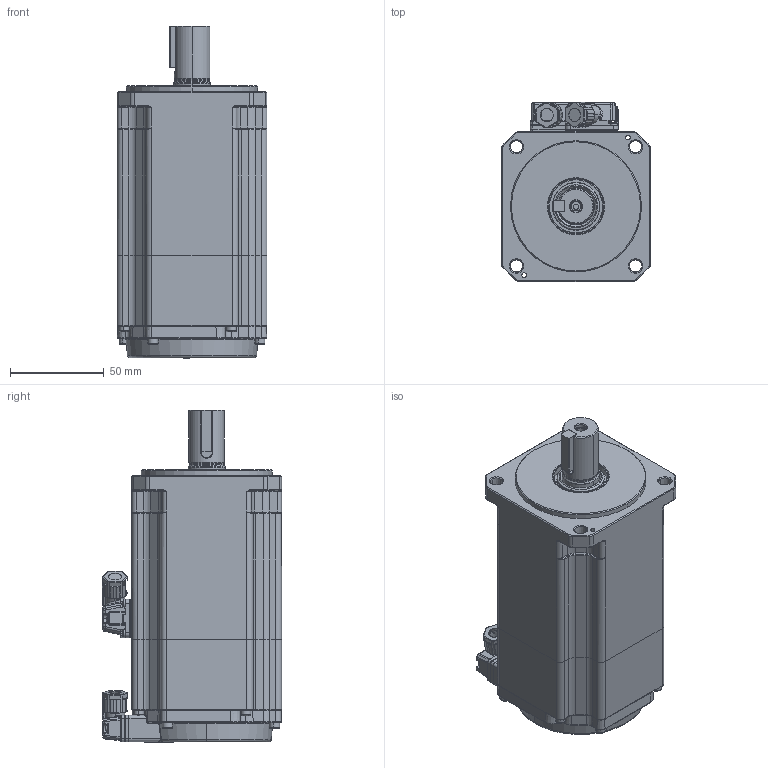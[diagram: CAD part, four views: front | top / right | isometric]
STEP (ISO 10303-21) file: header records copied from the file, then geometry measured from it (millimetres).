
FILE_DESCRIPTION (( 'STEP AP214' ), '1' );
FILE_NAME ('80x80-1000W伺服电机带制动器_通用外形图_A0.STEP', '2023-09-15T02:03:00', ( '' ), ( '' ), 'SwSTEP 2.0', 'SolidWorks 2020', '' );
FILE_SCHEMA (( 'AUTOMOTIVE_DESIGN' ));
Length unit declared in the file: millimetre
Products named in the file (1): 80x80-1000W伺服电机带制动器_通用外形图_A0
Bounding box: 80 x 95.65 x 177.3 mm (x, y, z)
Surface area: 65077 mm2 (no closed solid volume)
Topology: 0 solids, 29 shells, 1310 faces, 4748 edges, 3273 vertices
Faces by surface type: cylinder 439, plane 426, torus 218, bspline 111, cone 87, sphere 29
Entity records: 71549 total; most frequent: CARTESIAN_POINT 19027, DIRECTION 7666, ORIENTED_EDGE 7435, EDGE_CURVE 4714, VERTEX_POINT 3273, AXIS2_PLACEMENT_3D 2783, LINE 2100, VECTOR 2100
